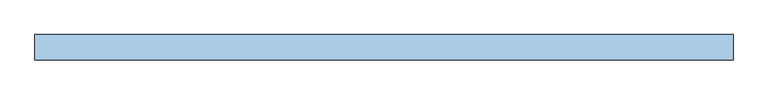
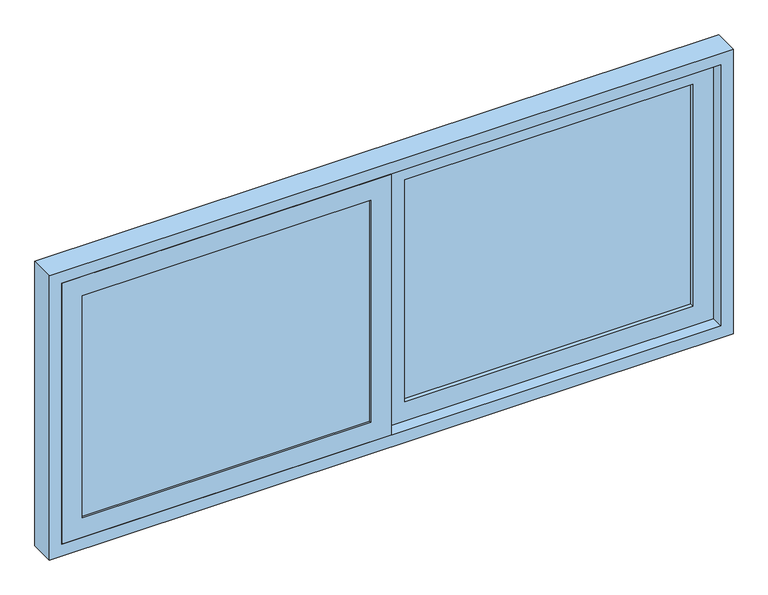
"""IFC4 building model written with IfcOpenShell, lengths in millimetres: window geometry, Janela Correr (bancada)- 2 folhas.GLE : 166X70 h=17 (Abrir 2 folhas)."""

import ifcopenshell
import ifcopenshell.guid

model = None  # the IFC model being written
_history = None  # IfcOwnerHistory: only IFC2X3 demands one
_inside = {}  # id of a spatial element -> (the spatial element, [elements in it])
_under = {}  # id of a project, library or spatial element -> (it, [spatial elements below it])
_declared = {}  # id of a project -> (the project, [libraries it declares])
_typed = {}  # id of a type object -> (the type object, [elements of that type])
_made_of = {}  # id of a material, layer set ... -> (it, [elements and type objects made of it])


def new_model(schema):
    """Start an empty IFC model of exactly this schema.

    Asked for "IFC4X3", IfcOpenShell would pick the latest addendum, in which some entities
    have other attributes; the version numbers below select the first issue.
    IFC2X3 requires an IfcOwnerHistory on every rooted entity: one is made here for all.
    """
    global model, _history
    if schema == "IFC4X3":
        model = ifcopenshell.file(schema_version=(4, 3, 0, 0))
    else:
        model = ifcopenshell.file(schema=schema)
    _inside.clear()
    _under.clear()
    _declared.clear()
    _typed.clear()
    _made_of.clear()
    _history = None
    if model.schema == "IFC2X3":
        org = make("IfcOrganization", Name="unknown")
        user = make(
            "IfcPersonAndOrganization",
            ThePerson=make("IfcPerson", FamilyName="unknown"),
            TheOrganization=org,
        )
        app = make(
            "IfcApplication",
            ApplicationDeveloper=org,
            Version="unknown",
            ApplicationFullName="unknown",
            ApplicationIdentifier="unknown",
        )
        _history = make(
            "IfcOwnerHistory",
            OwningUser=user,
            OwningApplication=app,
            ChangeAction="ADDED",
            CreationDate=0,
        )
    return model


def make(cls, **values):
    """One entity of the class cls with the attributes given. An attribute that is None is left unset."""
    return model.create_entity(
        cls, **{name: value for name, value in values.items() if value is not None}
    )


def rooted(cls, **values):
    """An entity with a GlobalId (a new one), such as an element, a storey or a relation."""
    return make(cls, GlobalId=ifcopenshell.guid.new(), OwnerHistory=_history, **values)


def si_unit(unit_type, name, prefix=None):
    """IfcSIUnit, for example si_unit("LENGTHUNIT", "METRE", prefix="MILLI")."""
    return make("IfcSIUnit", UnitType=unit_type, Prefix=prefix, Name=name)


def assignment(units):
    """IfcUnitAssignment: the units of a project."""
    return None if units is None else make("IfcUnitAssignment", Units=units)


def point(xyz):
    """IfcCartesianPoint."""
    return None if xyz is None else make("IfcCartesianPoint", Coordinates=xyz)


def direction(xyz):
    """IfcDirection."""
    return None if xyz is None else make("IfcDirection", DirectionRatios=xyz)


def frame(location, z_axis=None, x_axis=None):
    """IfcAxis2Placement3D, a coordinate frame: its origin and axes. An axis left out is left unset."""
    return make(
        "IfcAxis2Placement3D",
        Location=point(location),
        Axis=direction(z_axis),
        RefDirection=direction(x_axis),
    )


def origin():
    """The frame at (0, 0, 0) with its axes left unset."""
    return frame((0.0, 0.0, 0.0))


def place(relative_to, where):
    """IfcLocalPlacement: puts the frame where relative to a parent placement (None: the world)."""
    return make(
        "IfcLocalPlacement", PlacementRelTo=relative_to, RelativePlacement=where
    )


def context(
    kind, dimensions, precision=None, world=None, true_north=None, identifier=None
):
    """IfcGeometricRepresentationContext, for example the 3D "Model" context."""
    return make(
        "IfcGeometricRepresentationContext",
        ContextIdentifier=identifier,
        ContextType=kind,
        CoordinateSpaceDimension=dimensions,
        Precision=precision,
        WorldCoordinateSystem=world,
        TrueNorth=true_north,
    )


def project(units=None, contexts=None):
    """IfcProject with its units and contexts."""
    return rooted(
        "IfcProject",
        Name="project",
        RepresentationContexts=contexts,
        UnitsInContext=assignment(units),
    )


def spatial(cls, under=None, at=None, **own):
    """A site, building, storey or space (cls), placed at a placement, below another one or the project."""
    s = rooted(cls, ObjectPlacement=at, **own)
    if under is not None:
        _under.setdefault(under.id(), (under, []))[1].append(s)
    return s


def polyline(points):
    """IfcPolyline through the points."""
    return make("IfcPolyline", Points=[point(p) for p in points])


def outline(outer, holes=None, kind="AREA"):
    """IfcArbitraryClosedProfileDef: a profile drawn as a closed curve; with holes, ...WithVoids."""
    if holes is None:
        return make("IfcArbitraryClosedProfileDef", ProfileType=kind, OuterCurve=outer)
    return make(
        "IfcArbitraryProfileDefWithVoids",
        ProfileType=kind,
        OuterCurve=outer,
        InnerCurves=holes,
    )


def extrude(swept, where, along, depth):
    """IfcExtrudedAreaSolid: the profile swept, set in the frame where, extruded along a direction by depth."""
    return make(
        "IfcExtrudedAreaSolid",
        SweptArea=swept,
        Position=where,
        ExtrudedDirection=direction(along),
        Depth=depth,
    )


def shape(context_of_items, identifier, shape_type, items):
    """IfcShapeRepresentation: the items that make up one representation, for example the "Body"."""
    return make(
        "IfcShapeRepresentation",
        ContextOfItems=context_of_items,
        RepresentationIdentifier=identifier,
        RepresentationType=shape_type,
        Items=items,
    )


def source(mapping_origin, context_of_items, identifier, shape_type, items):
    """IfcRepresentationMap: a shape defined once, which mapped items show again and again."""
    return make(
        "IfcRepresentationMap",
        MappingOrigin=mapping_origin,
        MappedRepresentation=shape(context_of_items, identifier, shape_type, items),
    )


def transform(
    local_origin,
    x_axis=None,
    y_axis=None,
    z_axis=None,
    scale=None,
    scale2=None,
    scale3=None,
    uniform=True,
):
    """IfcCartesianTransformationOperator3D, or its non-uniform kind. x_axis, y_axis, z_axis: its Axis1, 2, 3."""
    if uniform:
        return make(
            "IfcCartesianTransformationOperator3D",
            Axis1=direction(x_axis),
            Axis2=direction(y_axis),
            LocalOrigin=point(local_origin),
            Scale=scale,
            Axis3=direction(z_axis),
        )
    return make(
        "IfcCartesianTransformationOperator3DnonUniform",
        Axis1=direction(x_axis),
        Axis2=direction(y_axis),
        LocalOrigin=point(local_origin),
        Scale=scale,
        Axis3=direction(z_axis),
        Scale2=scale2,
        Scale3=scale3,
    )


def mapped(mapping_source, mapping_target):
    """IfcMappedItem: shows the shape of a source again, moved by a transform."""
    return make(
        "IfcMappedItem", MappingSource=mapping_source, MappingTarget=mapping_target
    )


def made_of(thing, what):
    """Note that an element or type object is made of a material, layer set ...; save() writes the relation."""
    if what is not None:
        _made_of.setdefault(what.id(), (what, []))[1].append(thing)
    return thing


def element(
    cls,
    number,
    at=None,
    inside=None,
    cuts=None,
    type_object=None,
    material=None,
    context=None,
    identifier="Body",
    shape_type=None,
    held_by="IfcProductDefinitionShape",
    body=None,
    shapes=None,
    **own,
):
    """One element of the class cls, such as IfcWall. Its Tag is "e" and its number.

    at: its placement. inside: the storey or other place that contains it. cuts: it is an
    opening in that element (IfcRelVoidsElement). A single representation is given by context,
    identifier, shape_type and body (its items); several are given by shapes. held_by: the class
    of the entity that holds the representations. save() writes the other relations.
    """
    e = rooted(cls, Tag="e%d" % number, ObjectPlacement=at, **own)
    if body is not None:
        shapes = [shape(context, identifier, shape_type, body)]
    if shapes is not None:
        e.Representation = make(held_by, Representations=shapes)
    if inside is not None:
        _inside.setdefault(inside.id(), (inside, []))[1].append(e)
    if cuts is not None:
        rooted(
            "IfcRelVoidsElement", RelatingBuildingElement=cuts, RelatedOpeningElement=e
        )
    if type_object is not None:
        _typed.setdefault(type_object.id(), (type_object, []))[1].append(e)
    return made_of(e, material)


def aggregate(whole, parts):
    """IfcRelAggregates: a whole, such as a stair, and the parts it consists of."""
    return rooted("IfcRelAggregates", RelatingObject=whole, RelatedObjects=parts)


def save(model, path):
    """Write the relations noted so far, then the file.

    IfcRelAggregates (storeys below a building ...), IfcRelContainedInSpatialStructure (elements
    in a storey), IfcRelDefinesByType, IfcRelAssociatesMaterial and IfcRelDeclares: one each for
    every whole, place, type object, material and project.
    """
    for whole, parts in _under.values():
        aggregate(whole, parts)
    for where, things in _inside.values():
        rooted(
            "IfcRelContainedInSpatialStructure",
            RelatedElements=things,
            RelatingStructure=where,
        )
    for kind, things in _typed.values():
        rooted("IfcRelDefinesByType", RelatedObjects=things, RelatingType=kind)
    for what, things in _made_of.values():
        rooted("IfcRelAssociatesMaterial", RelatedObjects=things, RelatingMaterial=what)
    for by, libraries in _declared.values():
        rooted("IfcRelDeclares", RelatingContext=by, RelatedDefinitions=libraries)
    model.write(path)


def window_8d8c32c6(model_context):
    return source(origin(), model_context, "Body", "SweptSolid", [
        extrude(outline(polyline([(1000.0, -830.0), (1000.0, 830.0), (1730.0, 830.0), (1730.0, -830.0), (1000.0, -830.0)]), holes=[polyline([(1700.0, -800.0), (1700.0, 800.0), (1030.0, 800.0), (1030.0, -800.0), (1700.0, -800.0)])]), frame((0.0, -30.0, 0.0), z_axis=(0.0, 1.0, 0.0), x_axis=(0.0, 0.0, 1.0)), (0.0, 0.0, 1.0), 60.0),
        extrude(outline(polyline([(-50.0, -25.0), (-750.0, -25.0), (-750.0, -15.0), (-50.0, -15.0), (-50.0, -25.0)])), frame((0.0, 0.0, 1080.0), z_axis=(0.0, 0.0, 1.0), x_axis=(1.0, 0.0, 0.0)), (0.0, 0.0, 1.0), 570.0),
        extrude(outline(polyline([(750.0, 10.0), (50.0, 10.0), (50.0, 20.0), (750.0, 20.0), (750.0, 10.0)])), frame((0.0, 0.0, 1080.0), z_axis=(0.0, 0.0, 1.0), x_axis=(1.0, 0.0, 0.0)), (0.0, 0.0, 1.0), 570.0),
        extrude(outline(polyline([(1700.0, 0.0), (1030.0, 0.0), (1030.0, 800.0), (1700.0, 800.0), (1700.0, 0.0)]), holes=[polyline([(1650.0, 50.0), (1650.0, 750.0), (1080.0, 750.0), (1080.0, 50.0), (1650.0, 50.0)])]), frame((0.0, 0.0, 0.0), z_axis=(0.0, 1.0, 0.0), x_axis=(0.0, 0.0, 1.0)), (0.0, 0.0, 1.0), 30.0),
        extrude(outline(polyline([(1700.0, -800.0), (1030.0, -800.0), (1030.0, 0.0), (1700.0, 0.0), (1700.0, -800.0)]), holes=[polyline([(1650.0, -750.0), (1650.0, -50.0), (1080.0, -50.0), (1080.0, -750.0), (1650.0, -750.0)])]), frame((0.0, -30.0, 0.0), z_axis=(0.0, 1.0, 0.0), x_axis=(0.0, 0.0, 1.0)), (0.0, 0.0, 1.0), 30.0),
    ])


if __name__ == "__main__":
    model = new_model("IFC4")
    model_context = context("Model", 3, world=origin())
    ifc_project = project(units=[si_unit("LENGTHUNIT", "METRE", prefix="MILLI")], contexts=[model_context])
    site = spatial("IfcSite", under=ifc_project)
    building = spatial("IfcBuilding", under=site)
    placement = place(None, origin())
    window_shape = window_8d8c32c6(model_context)
    element("IfcWindow", 1, ObjectType="Janela Correr (bancada)- 2 folhas.GLE : 166X70 h=17 (Abrir 2 folhas)", at=placement, inside=building, context=model_context, shape_type="MappedRepresentation", body=[
        mapped(window_shape, transform((0.0, 0.0, 0.0), x_axis=(1.0, 0.0, 0.0), y_axis=(0.0, 1.0, 0.0), z_axis=(0.0, 0.0, 1.0))),
    ])
    save(model, "model.ifc")
